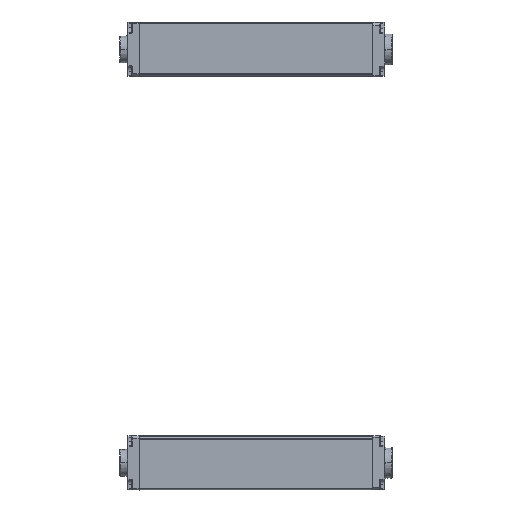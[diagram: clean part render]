
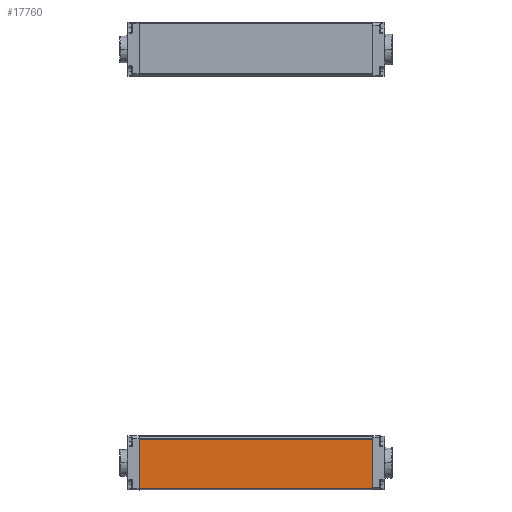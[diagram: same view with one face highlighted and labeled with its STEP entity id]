
A CAD part, left-side view. The second image highlights one B-rep face of the part: STEP entity #17760.
In plain terms, the highlighted planar face has unit normal (-1, 0, -0.009) as drawn and (1, 0, 0) by its records, which use the part's own axes.
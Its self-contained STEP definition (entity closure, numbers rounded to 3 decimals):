
#708 = EDGE_CURVE ( 'NONE', #11178, #17728, #2400, .T. ) ;
#2288 = EDGE_CURVE ( 'NONE', #11178, #11122, #4196, .T. ) ;
#2400 = LINE ( 'NONE', #7952, #17753 ) ;
#2437 = CARTESIAN_POINT ( 'NONE',  ( 15., 0., 10.9 ) ) ;
#2524 = CARTESIAN_POINT ( 'NONE',  ( 15., 130., -16.9 ) ) ;
#3664 = DIRECTION ( 'NONE',  ( 0., 1., 0. ) ) ;
#3727 = EDGE_CURVE ( 'NONE', #6004, #11122, #10581, .T. ) ;
#4028 = LINE ( 'NONE', #9567, #10286 ) ;
#4128 = CARTESIAN_POINT ( 'NONE',  ( 15., 130., 10.9 ) ) ;
#4196 = LINE ( 'NONE', #9739, #14208 ) ;
#6004 = VERTEX_POINT ( 'NONE', #12451 ) ;
#7010 = ORIENTED_EDGE ( 'NONE', *, *, #2288, .F. ) ;
#7952 = CARTESIAN_POINT ( 'NONE',  ( 15., 130., 10.9 ) ) ;
#8072 = DIRECTION ( 'NONE',  ( -1., 0., 0. ) ) ;
#8511 = AXIS2_PLACEMENT_3D ( 'NONE', #2524, #8072, #13619 ) ;
#9432 = FACE_OUTER_BOUND ( 'NONE', #14273, .T. ) ;
#9567 = CARTESIAN_POINT ( 'NONE',  ( 15., 0., -16.9 ) ) ;
#9739 = CARTESIAN_POINT ( 'NONE',  ( 15., 130., -16.9 ) ) ;
#10286 = VECTOR ( 'NONE', #15129, 1000. ) ;
#10581 = LINE ( 'NONE', #16146, #12595 ) ;
#10977 = ORIENTED_EDGE ( 'NONE', *, *, #3727, .T. ) ;
#11122 = VERTEX_POINT ( 'NONE', #15134 ) ;
#11178 = VERTEX_POINT ( 'NONE', #4128 ) ;
#11547 = ORIENTED_EDGE ( 'NONE', *, *, #708, .T. ) ;
#12451 = CARTESIAN_POINT ( 'NONE',  ( 15., 0., -16.693 ) ) ;
#12595 = VECTOR ( 'NONE', #3664, 1000. ) ;
#13493 = DIRECTION ( 'NONE',  ( 0., -1., 0. ) ) ;
#13619 = DIRECTION ( 'NONE',  ( 0., 0., 1. ) ) ;
#14208 = VECTOR ( 'NONE', #15297, 1000. ) ;
#14273 = EDGE_LOOP ( 'NONE', ( #15128, #10977, #7010, #11547 ) ) ;
#14988 = PLANE ( 'NONE',  #8511 ) ;
#15128 = ORIENTED_EDGE ( 'NONE', *, *, #16997, .T. ) ;
#15129 = DIRECTION ( 'NONE',  ( 0., 0., -1. ) ) ;
#15134 = CARTESIAN_POINT ( 'NONE',  ( 15., 130., -16.693 ) ) ;
#15297 = DIRECTION ( 'NONE',  ( 0., 0., -1. ) ) ;
#16146 = CARTESIAN_POINT ( 'NONE',  ( 15., 130., -16.693 ) ) ;
#16997 = EDGE_CURVE ( 'NONE', #17728, #6004, #4028, .T. ) ;
#17728 = VERTEX_POINT ( 'NONE', #2437 ) ;
#17753 = VECTOR ( 'NONE', #13493, 1000. ) ;
#17760 = ADVANCED_FACE ( 'NONE', ( #9432 ), #14988, .F. ) ;
